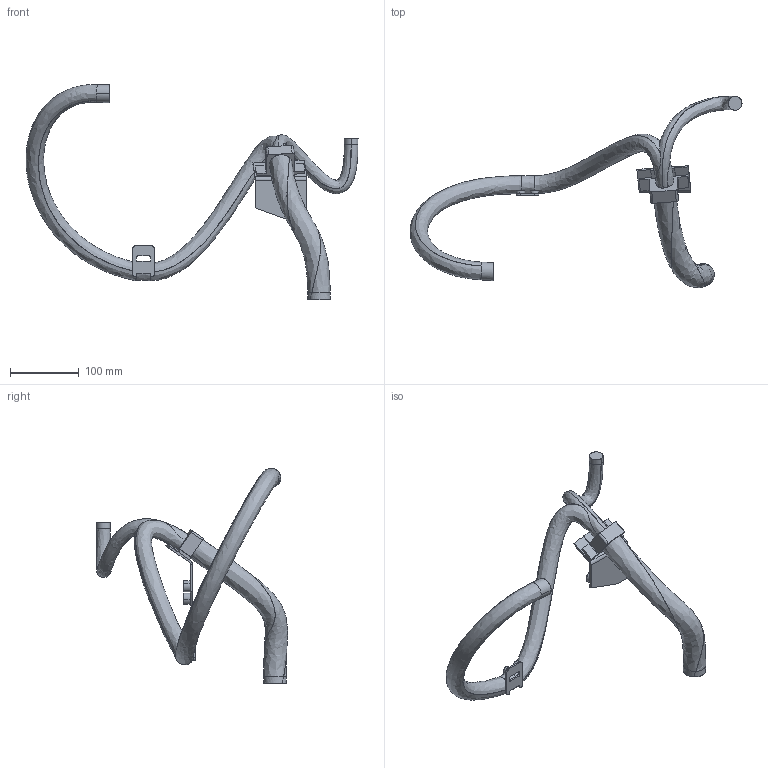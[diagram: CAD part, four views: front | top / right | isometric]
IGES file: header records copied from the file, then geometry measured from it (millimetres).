
Start section: SolidWorks IGES file using analytic representation for surfaces
Global section: file name: B:\DM\Robotics\SEROP_PROJ\Product Development\DevelopmentProjects\Manipulator_Modularity\04. Product Design\06. CAD\Amanda\7710 Lightweight models\IRB7710_310kg-350_OC_00_SW_J\IRB7710_All_OC_00_LINK03m_CABLE.IGS; native system: SolidWorks 2022; preprocessor: SolidWorks 2022; author: SEAMSTO1; date: 240118.113111; units: millimetre
Bounding box: 483 x 278.19 x 312.97 mm (x, y, z)
Surface area: 128497.5 mm2 (no closed solid volume)
Topology: 0 solids, 0 shells, 95 faces, 1455 edges, 1453 vertices
Faces by surface type: bspline 63, revolution 32
